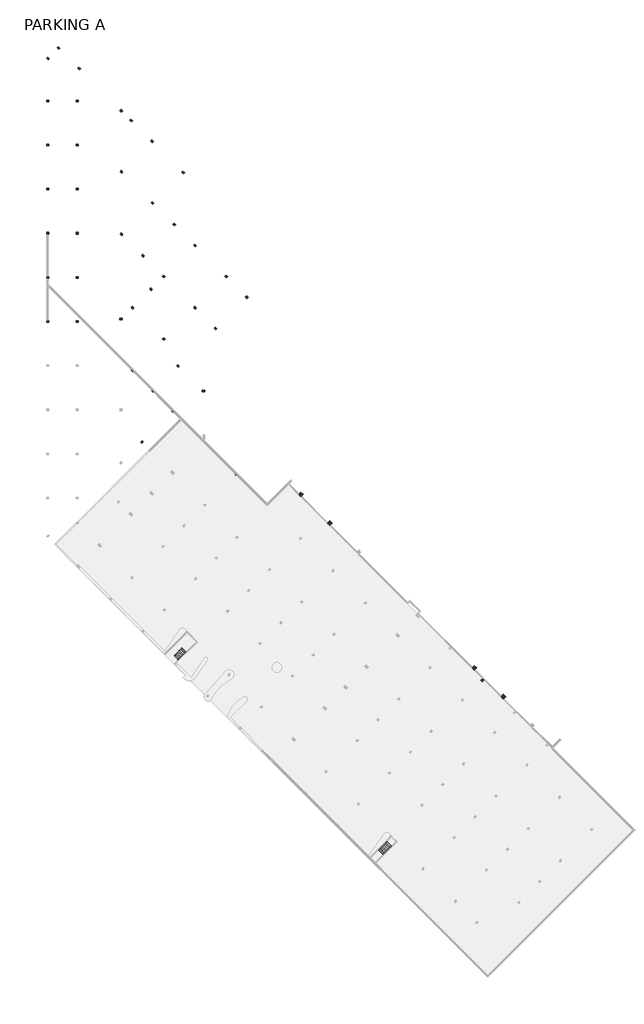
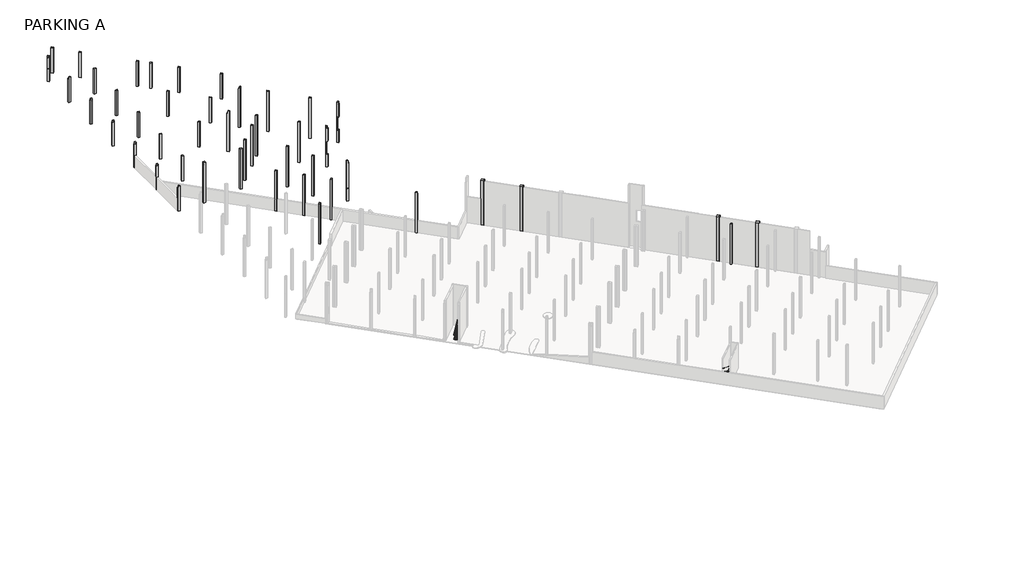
# One storey, part 3 of 3: 46 columns, 4 railings, 2 stair flights.
"""IFC4 building model written with IfcOpenShell, lengths in millimetres."""

from ifc_helpers import new_model, si_unit, frame, origin, place, context, project, spatial, polyline, outline, extrude, faceted_brep, transform, mapped, element, save
from components import column_746bd152, column_d698a775, railing_1_6d40baea, railing_1_b2eb6bb3, railing_1_8f361b06, railing_1_4b42a0d8

model = new_model("IFC4")

# Units and contexts
model_context = context("Model", 3, world=origin())
ifc_project = project(units=[si_unit("LENGTHUNIT", "METRE", prefix="MILLI")], contexts=[model_context])

# Site, building, storey
site = spatial("IfcSite", under=ifc_project)
building = spatial("IfcBuilding", under=site)
storey = spatial("IfcBuildingStorey", under=building, Name="PARKING A", Elevation=-6007.1)

# Columns
placement = place(None, origin())
element("IfcColumn", 1, ObjectType="Rectangular Column : 12\" x 16\"", at=placement, inside=storey, context=model_context, shape_type="SweptSolid", body=[
    extrude(outline(polyline([(0.0, 406.4), (9232.9, 406.4), (9232.9, 304.8), (6553.2, 304.8), (6553.2, 0.0), (0.0, 0.0), (0.0, 406.4)])), frame((-55889.5534334, 54142.7529679, 3225.8), z_axis=(-0.7071067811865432, 0.7071067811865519, 0.0), x_axis=(0.0, 0.0, -1.0)), (0.0, 0.0, 1.0), 304.8),
])
element("IfcColumn", 2, ObjectType="Rectangular Column : 12\" x 16\"", at=placement, inside=storey, context=model_context, shape_type="Brep", body=[
    faceted_brep([(-44453.1972632, 42131.660406, -6007.1), (-44668.7234101, 42347.1865529, -6007.1), (-44596.8813612, 42419.0286019, -6007.1), (-44381.3552142, 42203.502455, -6007.1), (-44165.8290673, 42419.0286019, -3327.4), (-44381.3552142, 42634.5547488, -3327.4), (-44381.3552142, 42634.5547488, -152.4), (-44381.3552142, 42634.5547488, 762.0), (-44381.3552142, 42634.5547488, 2768.6), (-44165.8290673, 42419.0286019, 2768.6), (-44165.8290673, 42419.0286019, 762.0), (-44165.8290673, 42419.0286019, -152.4), (-44165.8290673, 42419.0286019, -3048.0), (-44165.8290673, 42419.0286019, -3200.4), (-44381.3552142, 42203.502455, -3327.4), (-44273.5921408, 42311.2655284, 2768.6), (-44273.5921408, 42311.2655284, 3225.8), (-44453.1972632, 42131.660406, 3225.8), (-44453.1972632, 42131.660406, -3048.0), (-44453.1972632, 42131.660406, -3200.4), (-44668.7234101, 42347.1865529, 3225.8), (-44489.1182877, 42526.7916753, 3225.8), (-44489.1182877, 42526.7916753, 2768.6), (-44596.8813612, 42419.0286019, -3327.4)], [[[0, 1, 2, 3]], [[4, 5, 6, 7, 8, 9, 10, 11, 12, 13]], [[0, 3, 14, 4, 13, 12, 11, 10, 9, 15, 16, 17, 18, 19]], [[1, 0, 19, 18, 17, 20]], [[1, 20, 21, 22, 8, 7, 6, 5, 23, 2]], [[20, 17, 16, 21]], [[23, 14, 3, 2]], [[14, 23, 5, 4]], [[15, 22, 21, 16]], [[22, 15, 9, 8]]]),
])
element("IfcColumn", 3, ObjectType="Rectangular Column : 12\" x 16\"", at=placement, inside=storey, context=model_context, shape_type="Brep", body=[
    faceted_brep([(-50248.8083521, 57682.4896908, -6007.1), (-50655.2083521, 57682.4896908, -6007.1), (-50655.2083521, 57987.2896908, -6007.1), (-50248.8083521, 57987.2896908, -6007.1), (-50248.8083521, 57987.2896908, -3200.4), (-50655.2083521, 57987.2896908, -3200.4), (-50655.2083521, 57682.4896908, -3200.4), (-50248.8083521, 57682.4896908, -3200.4)], [[[0, 1, 2, 3]], [[4, 5, 6, 7]], [[2, 1, 6, 5]], [[0, 3, 4, 7]], [[3, 2, 5, 4]], [[1, 0, 7, 6]]]),
    faceted_brep([(-50248.8083521, 57682.4896908, -3048.0), (-50248.8083521, 57987.2896908, -3048.0), (-50248.8083521, 57987.2896908, -152.4), (-50248.8083521, 57987.2896908, 762.0), (-50248.8083521, 57987.2896908, 2768.6), (-50248.8083521, 57682.4896908, 2768.6), (-50248.8083521, 57682.4896908, 762.0), (-50248.8083521, 57682.4896908, -152.4), (-50655.2083521, 57987.2896908, -3048.0), (-50655.2083521, 57987.2896908, 3225.8), (-50401.2083521, 57987.2896908, 3225.8), (-50401.2083521, 57987.2896908, 2768.6), (-50655.2083521, 57682.4896908, 3225.8), (-50655.2083521, 57682.4896908, -3048.0), (-50401.2083521, 57682.4896908, 2768.6), (-50401.2083521, 57682.4896908, 3225.8)], [[[0, 1, 2, 3, 4, 5, 6, 7]], [[8, 9, 10, 11, 4, 3, 2, 1]], [[12, 9, 8, 13]], [[12, 13, 0, 7, 6, 5, 14, 15]], [[9, 12, 15, 10]], [[8, 1, 0, 13]], [[14, 11, 10, 15]], [[11, 14, 5, 4]]]),
])
element("IfcColumn", 4, ObjectType="Rectangular Column : 12\" x 16\"", at=placement, inside=storey, context=model_context, shape_type="SweptSolid", body=[
    extrude(outline(polyline([(0.0, 304.8000001), (9232.9, 304.8000001), (9232.9, 254.0), (6553.2, 254.0), (6553.2, 0.0), (0.0, 0.0), (0.0, 304.8000001)])), frame((-59611.8695956, 57793.2270812, 3225.8), z_axis=(-0.7071067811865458, 0.7071067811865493, 0.0), x_axis=(0.0, 0.0, -1.0)), (0.0, 0.0, 1.0), 406.4),
])
element("IfcColumn", 5, ObjectType="Rectangular Column : 12\" x 16\"", at=placement, inside=storey, context=model_context, shape_type="SweptSolid", body=[
    extrude(outline(polyline([(-55193.583584, 62211.5130927), (-55480.9517799, 62498.8812886), (-55265.425633, 62714.4074355), (-54978.0574371, 62427.0392396), (-55193.583584, 62211.5130927)])), frame((0.0, 0.0, -6007.1), z_axis=(0.0, 0.0, 1.0), x_axis=(1.0, 0.0, 0.0)), (0.0, 0.0, 1.0), 9232.9),
])
element("IfcColumn", 6, ObjectType="Rectangular Column : 12\" x 16\"", at=placement, inside=storey, context=model_context, shape_type="Brep", body=[
    faceted_brep([(-79334.713691, 70623.4660287, -6007.1), (-79741.113691, 70623.4660287, -6007.1), (-79741.113691, 70928.2660287, -6007.1), (-79436.313691, 70928.2660287, -6007.1), (-79334.713691, 70928.2660287, -6007.1), (-79334.713691, 70928.2660287, -279.4), (-79334.713691, 70623.4660287, -279.4), (-79741.113691, 70928.2660287, -3200.4), (-79741.113691, 70928.2660287, -2286.0), (-79741.113691, 70928.2660287, -609.6), (-79588.713691, 70928.2660287, -609.6), (-79588.713691, 70928.2660287, -279.4), (-79741.113691, 70623.4660287, -3657.6), (-79741.113691, 70623.4660287, -2286.0), (-79741.113691, 70623.4660287, -609.6), (-79588.713691, 70623.4660287, -279.4), (-79588.713691, 70623.4660287, -609.6)], [[[0, 1, 2, 3, 4]], [[0, 4, 5, 6]], [[4, 3, 2, 7, 8, 9, 10, 11, 5]], [[2, 1, 12, 13, 14, 9, 8, 7]], [[1, 0, 6, 15, 16, 14, 13, 12]], [[6, 5, 11, 15]], [[10, 16, 15, 11]], [[16, 10, 9, 14]]]),
])
element("IfcColumn", 7, ObjectType="Rectangular Column : 12\" x 16\"", at=placement, inside=storey, context=model_context, shape_type="Brep", body=[
    faceted_brep([(-79334.713691, 78853.0660287, -6007.1), (-79436.313691, 78853.0660287, -6007.1), (-79741.113691, 78853.0660287, -6007.1), (-79741.113691, 79157.8660287, -6007.1), (-79436.313691, 79157.8660287, -6007.1), (-79334.713691, 79157.8660287, -6007.1), (-79334.713691, 79157.8660287, -279.4), (-79334.713691, 78853.0660287, -279.4), (-79741.113691, 79157.8660287, -3200.4), (-79741.113691, 79157.8660287, -2286.0), (-79741.113691, 79157.8660287, -609.6), (-79588.713691, 79157.8660287, -609.6), (-79588.713691, 79157.8660287, -279.4), (-79741.113691, 78853.0660287, -3200.4), (-79741.113691, 78853.0660287, -2286.0), (-79741.113691, 78853.0660287, -609.6), (-79588.713691, 78853.0660287, -279.4), (-79588.713691, 78853.0660287, -609.6)], [[[0, 1, 2, 3, 4, 5]], [[0, 5, 6, 7]], [[5, 4, 3, 8, 9, 10, 11, 12, 6]], [[3, 2, 13, 14, 15, 10, 9, 8]], [[2, 1, 0, 7, 16, 17, 15, 14, 13]], [[7, 6, 12, 16]], [[11, 17, 16, 12]], [[17, 11, 10, 15]]]),
])
element("IfcColumn", 8, ObjectType="Rectangular Column : 12\" x 16\"", at=placement, inside=storey, context=model_context, shape_type="Brep", body=[
    faceted_brep([(-79741.113691, 87387.4660287, -6007.1), (-79334.713691, 87387.4660287, -6007.1), (-79334.713691, 87082.6660287, -6007.1), (-79436.313691, 87082.6660287, -6007.1), (-79741.113691, 87082.6660287, -6007.1), (-79334.713691, 87387.4660287, -279.4), (-79334.713691, 87082.6660287, -279.4), (-79588.713691, 87082.6660287, -279.4), (-79588.713691, 87082.6660287, -609.6), (-79741.113691, 87082.6660287, -609.6), (-79741.113691, 87082.6660287, -2286.0), (-79741.113691, 87082.6660287, -3200.4), (-79741.113691, 87387.4660287, -609.6), (-79741.113691, 87387.4660287, -2286.0), (-79741.113691, 87387.4660287, -3200.4), (-79588.713691, 87387.4660287, -609.6), (-79588.713691, 87387.4660287, -279.4)], [[[0, 1, 2, 3, 4]], [[2, 1, 5, 6]], [[4, 3, 2, 6, 7, 8, 9, 10, 11]], [[0, 4, 11, 10, 9, 12, 13, 14]], [[1, 0, 14, 13, 12, 15, 16, 5]], [[6, 5, 16, 7]], [[15, 8, 7, 16]], [[8, 15, 12, 9]]]),
])
element("IfcColumn", 9, ObjectType="Rectangular Column : 12\" x 16\"", at=placement, inside=storey, context=model_context, shape_type="Brep", body=[
    faceted_brep([(-79741.113691, 95617.0660287, -6007.1), (-79334.713691, 95617.0660287, -6007.1), (-79334.713691, 95312.2660287, -6007.1), (-79741.113691, 95312.2660287, -6007.1), (-79334.713691, 95617.0660287, -279.4), (-79334.713691, 95312.2660287, -279.4), (-79588.713691, 95312.2660287, -279.4), (-79588.713691, 95312.2660287, -609.6), (-79741.113691, 95312.2660287, -609.6), (-79741.113691, 95312.2660287, -2286.0), (-79741.113691, 95312.2660287, -3200.4), (-79741.113691, 95617.0660287, -609.6), (-79588.713691, 95617.0660287, -609.6), (-79588.713691, 95617.0660287, -279.4)], [[[0, 1, 2, 3]], [[2, 1, 4, 5]], [[3, 2, 5, 6, 7, 8, 9, 10]], [[0, 3, 10, 9, 8, 11]], [[1, 0, 11, 12, 13, 4]], [[5, 4, 13, 6]], [[12, 7, 6, 13]], [[7, 12, 11, 8]]]),
])
element("IfcColumn", 10, ObjectType="Rectangular Column : 12\" x 16\"", at=placement, inside=storey, context=model_context, shape_type="SweptSolid", body=[
    extrude(outline(polyline([(-6007.1, -79741.113691), (-6007.1, -79334.713691), (-279.4, -79334.713691), (-279.4, -79588.713691), (-609.6, -79588.713691), (-609.6, -79741.113691), (-6007.1, -79741.113691)])), frame((0.0, 103541.8660287, 0.0), z_axis=(0.0, 1.0, 0.0), x_axis=(0.0, 0.0, 1.0)), (0.0, 0.0, 1.0), 304.8),
])
element("IfcColumn", 11, ObjectType="Rectangular Column : 12\" x 16\"", at=placement, inside=storey, context=model_context, shape_type="SweptSolid", body=[
    extrude(outline(polyline([(-6007.1, -79741.113691), (-6007.1, -79334.713691), (-279.4, -79334.713691), (-279.4, -79588.713691), (-609.6, -79588.713691), (-609.6, -79741.113691), (-6007.1, -79741.113691)])), frame((0.0, 111771.4660287, 0.0), z_axis=(0.0, 1.0, 0.0), x_axis=(0.0, 0.0, 1.0)), (0.0, 0.0, 1.0), 304.8),
])
element("IfcColumn", 12, ObjectType="Rectangular Column : 12\" x 16\"", at=placement, inside=storey, context=model_context, shape_type="Brep", body=[
    faceted_brep([(-79525.587544, 120066.8131527, -6007.1), (-79238.2193482, 119779.4449568, -6007.1), (-79453.7454951, 119563.9188099, -6007.1), (-79741.113691, 119851.2870058, -6007.1), (-79741.113691, 119851.2870058, -3200.4), (-79453.7454951, 119563.9188099, -3200.4), (-79334.713691, 119682.9506141, -3200.4), (-79334.713691, 119875.9392996, -3200.4), (-79525.587544, 120066.8131527, -3200.4), (-79238.2193482, 119779.4449568, -3200.4)], [[[0, 1, 2, 3]], [[4, 5, 6, 7, 8]], [[9, 7, 6]], [[2, 1, 9, 6, 5]], [[1, 0, 8, 7, 9]], [[3, 2, 5, 4]], [[0, 3, 4, 8]]]),
    faceted_brep([(-79238.2193482, 119779.4449568, -279.4), (-79453.7454951, 119563.9188099, -279.4), (-79453.7454951, 119563.9188099, -3048.0), (-79334.713691, 119682.9506141, -3048.0), (-79238.2193482, 119779.4449568, -3048.0), (-79741.113691, 119851.2870058, -3048.0), (-79588.713691, 119698.8870058, -279.4), (-79588.713691, 119698.8870058, -609.6), (-79741.113691, 119851.2870058, -609.6), (-79525.587544, 120066.8131527, -3048.0), (-79588.713691, 120003.6870058, -609.6), (-79588.713691, 120003.6870058, -279.4), (-79525.587544, 120066.8131527, -279.4), (-79334.713691, 119875.9392996, -3048.0)], [[[0, 1, 2, 3, 4]], [[5, 2, 1, 6, 7, 8]], [[9, 5, 8, 10, 11, 12]], [[12, 0, 4, 13, 9]], [[1, 0, 12, 11, 6]], [[2, 5, 9, 13, 3]], [[13, 4, 3]], [[10, 7, 6, 11]], [[7, 10, 8]]]),
])
element("IfcColumn", 13, ObjectType="Rectangular Column : 12\" x 16\"", at=placement, inside=storey, context=model_context, shape_type="Brep", body=[
    faceted_brep([(-77464.6187643, 121553.0455407, -6007.1), (-77751.9869601, 121840.4137366, -6007.1), (-77536.4608132, 122055.9398835, -6007.1), (-77249.0926174, 121768.5716877, -6007.1), (-77249.0926174, 121768.5716877, -279.4), (-77464.6187643, 121553.0455407, -279.4), (-77464.6187643, 121553.0455407, -3048.0), (-77464.6187643, 121553.0455407, -3200.4), (-77536.4608132, 122055.9398835, -279.4), (-77751.9869601, 121840.4137366, -3200.4), (-77751.9869601, 121840.4137366, -3048.0), (-77751.9869601, 121840.4137366, -279.4)], [[[0, 1, 2, 3]], [[0, 3, 4, 5, 6, 7]], [[3, 2, 8, 4]], [[2, 1, 9, 10, 11, 8]], [[1, 0, 7, 6, 5, 11, 10, 9]], [[5, 4, 8, 11]]]),
])
element("IfcColumn", 14, ObjectType="Rectangular Column : 12\" x 16\"", at=placement, inside=storey, context=model_context, shape_type="SweptSolid", body=[
    extrude(outline(polyline([(-73621.0691444, 117709.4959209), (-73908.4373403, 117996.8641168), (-73692.9111934, 118212.3902637), (-73405.5429975, 117925.0220678), (-73621.0691444, 117709.4959209)])), frame((0.0, 0.0, -6007.1), z_axis=(0.0, 0.0, 1.0), x_axis=(1.0, 0.0, 0.0)), (0.0, 0.0, 1.0), 5727.7),
])
element("IfcColumn", 15, ObjectType="Rectangular Column : 12\" x 16\"", at=placement, inside=storey, context=model_context, shape_type="SweptSolid", body=[
    extrude(outline(polyline([(-63922.3925337, 108010.8193102), (-64209.7607296, 108298.187506), (-63994.2345827, 108513.713653), (-63706.8663868, 108226.3454571), (-63922.3925337, 108010.8193102)])), frame((0.0, 0.0, -6007.1), z_axis=(0.0, 0.0, 1.0), x_axis=(1.0, 0.0, 0.0)), (0.0, 0.0, 1.0), 5727.7),
])
element("IfcColumn", 16, ObjectType="Rectangular Column : 12\" x 16\"", at=placement, inside=storey, context=model_context, shape_type="SweptSolid", body=[
    extrude(outline(polyline([(-65780.8883444, 109816.2679969), (-66068.2565403, 110103.6361927), (-65852.7303934, 110319.1623396), (-65565.3621975, 110031.7941438), (-65780.8883444, 109816.2679969)])), frame((0.0, 0.0, -6007.1), z_axis=(0.0, 0.0, 1.0), x_axis=(1.0, 0.0, 0.0)), (0.0, 0.0, 1.0), 5727.7),
])
element("IfcColumn", 17, ObjectType="Rectangular Column : 12\" x 16\"", at=placement, inside=storey, context=model_context, shape_type="Brep", body=[
    faceted_brep([(-42351.8173309, 75053.2793459, -6007.1), (-42639.1855268, 75340.6475417, -6007.1), (-42423.6593799, 75556.1736886, -6007.1), (-42136.291184, 75268.8054928, -6007.1), (-42351.8173309, 75053.2793459, -152.4), (-42136.291184, 75268.8054928, -152.4), (-42136.291184, 75268.8054928, 762.0), (-42136.291184, 75268.8054928, 2768.6), (-42351.8173309, 75053.2793459, 2768.6), (-42351.8173309, 75053.2793459, 762.0), (-42423.6593799, 75556.1736886, 3225.8), (-42244.0542574, 75376.5685662, 3225.8), (-42244.0542574, 75376.5685662, 2768.6), (-42244.0542574, 75376.5685662, -152.4), (-42351.8173309, 75484.3316397, -152.4), (-42351.8173309, 75484.3316397, -3200.4), (-42136.291184, 75268.8054928, -3200.4), (-42639.1855268, 75340.6475417, 3225.8), (-42351.8173309, 75053.2793459, -3200.4), (-42567.3434778, 75268.8054928, -3200.4), (-42567.3434778, 75268.8054928, -152.4), (-42459.5804043, 75161.0424193, -152.4), (-42459.5804043, 75161.0424193, 2768.6), (-42459.5804043, 75161.0424193, 3225.8)], [[[0, 1, 2, 3]], [[4, 5, 6, 7, 8, 9]], [[3, 2, 10, 11, 12, 7, 6, 5, 13, 14, 15, 16]], [[2, 1, 17, 10]], [[1, 0, 18, 19, 20, 21, 4, 9, 8, 22, 23, 17]], [[10, 17, 23, 11]], [[19, 15, 14, 20]], [[15, 19, 18, 16]], [[20, 14, 13, 5, 4, 21]], [[0, 3, 16, 18]], [[22, 12, 11, 23]], [[12, 22, 8, 7]]]),
])
element("IfcColumn", 18, ObjectType="Rectangular Column : 12\" x 16\"", at=placement, inside=storey, context=model_context, shape_type="Brep", body=[
    faceted_brep([(-48171.0232973, 69234.0733794, -6007.1), (-48458.3914932, 69521.4415753, -6007.1), (-48242.8653463, 69736.9677222, -6007.1), (-47955.4971504, 69449.5995263, -6007.1), (-48171.0232973, 69234.0733794, -152.4), (-47955.4971504, 69449.5995263, -152.4), (-47955.4971504, 69449.5995263, 762.0), (-47955.4971504, 69449.5995263, 2768.6), (-48171.0232973, 69234.0733794, 2768.6), (-48171.0232973, 69234.0733794, 762.0), (-48242.8653463, 69736.9677222, 3225.8), (-48063.2602239, 69557.3625998, 3225.8), (-48063.2602239, 69557.3625998, 2768.6), (-48063.2602239, 69557.3625998, -152.4), (-48171.0232973, 69665.1256732, -152.4), (-48171.0232973, 69665.1256732, -3200.4), (-47955.4971504, 69449.5995263, -3200.4), (-48458.3914932, 69521.4415753, 3225.8), (-48171.0232973, 69234.0733794, -3200.4), (-48386.5494442, 69449.5995263, -3200.4), (-48386.5494442, 69449.5995263, -152.4), (-48278.7863708, 69341.8364529, -152.4), (-48278.7863708, 69341.8364529, 2768.6), (-48278.7863708, 69341.8364529, 3225.8)], [[[0, 1, 2, 3]], [[4, 5, 6, 7, 8, 9]], [[3, 2, 10, 11, 12, 7, 6, 5, 13, 14, 15, 16]], [[2, 1, 17, 10]], [[1, 0, 18, 19, 20, 21, 4, 9, 8, 22, 23, 17]], [[10, 17, 23, 11]], [[19, 15, 14, 20]], [[15, 19, 18, 16]], [[20, 14, 13, 5, 4, 21]], [[0, 3, 16, 18]], [[22, 12, 11, 23]], [[12, 22, 8, 7]]]),
])
element("IfcColumn", 19, ObjectType="Rectangular Column : 12\" x 16\"", at=placement, inside=storey, context=model_context, shape_type="SweptSolid", body=[
    extrude(outline(polyline([(-60042.9218894, 104131.3486659), (-60330.2900853, 104418.7168617), (-60114.7639384, 104634.2430087), (-59827.3957425, 104346.8748128), (-60042.9218894, 104131.3486659)])), frame((0.0, 0.0, -6007.1), z_axis=(0.0, 0.0, 1.0), x_axis=(1.0, 0.0, 0.0)), (0.0, 0.0, 1.0), 5727.7),
])
element("IfcColumn", 20, ObjectType="Rectangular Column : 12\" x 16\"", at=placement, inside=storey, context=model_context, shape_type="SweptSolid", body=[
    extrude(outline(polyline([(-54223.7159229, 98312.1426994), (-54511.0841188, 98599.5108953), (-54295.5579719, 98815.0370422), (-54008.189776, 98527.6688463), (-54223.7159229, 98312.1426994)])), frame((0.0, 0.0, -6007.1), z_axis=(0.0, 0.0, 1.0), x_axis=(1.0, 0.0, 0.0)), (0.0, 0.0, 1.0), 5727.7),
])
element("IfcColumn", 21, ObjectType="Rectangular Column : 12\" x 16\"", at=placement, inside=storey, context=model_context, shape_type="SweptSolid", body=[
    extrude(outline(polyline([(0.0, 304.8), (9232.9, 304.8), (9232.9, 254.0), (6553.2, 254.0), (6553.2, 0.0), (0.0, 0.0), (0.0, 304.8)])), frame((-63455.4192154, 61636.776701, 3225.8), z_axis=(-0.7071067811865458, 0.7071067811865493, 0.0), x_axis=(0.0, 0.0, -1.0)), (0.0, 0.0, 1.0), 406.4),
])
element("IfcColumn", 22, ObjectType="Rectangular Column : 12\" x 16\"", at=placement, inside=storey, context=model_context, shape_type="SweptSolid", body=[
    extrude(outline(polyline([(-57833.7788836, 67258.4170328), (-58121.1470795, 67545.7852286), (-57905.6209326, 67761.3113755), (-57618.2527367, 67473.9431797), (-57833.7788836, 67258.4170328)])), frame((0.0, 0.0, -6007.1), z_axis=(0.0, 0.0, 1.0), x_axis=(1.0, 0.0, 0.0)), (0.0, 0.0, 1.0), 9232.9),
])
element("IfcColumn", 23, ObjectType="Rectangular Column : 12\" x 16\"", at=placement, inside=storey, context=model_context, shape_type="SweptSolid", body=[
    extrude(outline(polyline([(-52014.5729172, 73077.6229992), (-52301.941113, 73364.9911951), (-52086.4149661, 73580.517342), (-51799.0467702, 73293.1491461), (-52014.5729172, 73077.6229992)])), frame((0.0, 0.0, -6007.1), z_axis=(0.0, 0.0, 1.0), x_axis=(1.0, 0.0, 0.0)), (0.0, 0.0, 1.0), 9232.9),
])
element("IfcColumn", 24, ObjectType="Rectangular Column : 12\" x 16\"", at=placement, inside=storey, context=model_context, shape_type="SweptSolid", body=[
    extrude(outline(polyline([(-46195.3669507, 78896.8289657), (-46482.7351466, 79184.1971615), (-46267.2089997, 79399.7233084), (-45979.8408038, 79112.3551126), (-46195.3669507, 78896.8289657)])), frame((0.0, 0.0, -6007.1), z_axis=(0.0, 0.0, 1.0), x_axis=(1.0, 0.0, 0.0)), (0.0, 0.0, 1.0), 9232.9),
])
element("IfcColumn", 25, ObjectType="Rectangular Column : 12\" x 16\"", at=placement, inside=storey, context=model_context, shape_type="Brep", body=[
    faceted_brep([(-73799.5300296, 70623.4660287, -6007.1), (-74205.9300296, 70623.4660287, -6007.1), (-74205.9300296, 70928.2660287, -6007.1), (-73799.5300296, 70928.2660287, -6007.1), (-73799.5300296, 70928.2660287, 3225.8), (-73799.5300296, 70623.4660287, 3225.8), (-74205.9300296, 70928.2660287, 3225.8), (-74136.0195009, 70928.2660287, 3225.8), (-74136.0195009, 70928.2660287, 2768.6), (-73920.493354, 70928.2660287, 2768.6), (-73920.493354, 70928.2660287, 3225.8), (-74205.9300296, 70623.4660287, 3225.8), (-74205.9300296, 70642.8293531, 3225.8), (-74205.9300296, 70642.8293531, 2768.6), (-74205.9300296, 70858.3555, 2768.6), (-74205.9300296, 70858.3555, 3225.8)], [[[0, 1, 2, 3]], [[0, 3, 4, 5]], [[3, 2, 6, 7, 8, 9, 10, 4]], [[2, 1, 11, 12, 13, 14, 15, 6]], [[1, 0, 5, 11]], [[5, 4, 10, 12, 11]], [[9, 13, 12, 10]], [[14, 8, 7, 15]], [[13, 9, 8, 14]], [[7, 6, 15]]]),
])
element("IfcColumn", 26, ObjectType="Rectangular Column : 12\" x 16\"", at=placement, inside=storey, context=model_context, shape_type="SweptSolid", body=[
    extrude(outline(polyline([(-73799.5300296, 78853.0660287), (-74205.9300296, 78853.0660287), (-74205.9300296, 79157.8660287), (-73799.5300296, 79157.8660287), (-73799.5300296, 78853.0660287)])), frame((0.0, 0.0, -6007.1), z_axis=(0.0, 0.0, 1.0), x_axis=(1.0, 0.0, 0.0)), (0.0, 0.0, 1.0), 5727.7),
])
element("IfcColumn", 27, ObjectType="Rectangular Column : 12\" x 16\"", at=placement, inside=storey, context=model_context, shape_type="SweptSolid", body=[
    extrude(outline(polyline([(-73799.5300296, 87387.4660287), (-73799.5300296, 87082.6660287), (-74205.9300296, 87082.6660287), (-74205.9300296, 87387.4660287), (-73799.5300296, 87387.4660287)])), frame((0.0, 0.0, -6007.1), z_axis=(0.0, 0.0, 1.0), x_axis=(1.0, 0.0, 0.0)), (0.0, 0.0, 1.0), 5727.7),
])
element("IfcColumn", 28, ObjectType="Rectangular Column : 12\" x 16\"", at=placement, inside=storey, context=model_context, shape_type="SweptSolid", body=[
    extrude(outline(polyline([(-73799.5300296, 95617.0660287), (-73799.5300296, 95312.2660287), (-74205.9300296, 95312.2660287), (-74205.9300296, 95617.0660287), (-73799.5300296, 95617.0660287)])), frame((0.0, 0.0, -6007.1), z_axis=(0.0, 0.0, 1.0), x_axis=(1.0, 0.0, 0.0)), (0.0, 0.0, 1.0), 5727.7),
])
element("IfcColumn", 29, ObjectType="Rectangular Column : 12\" x 16\"", at=placement, inside=storey, context=model_context, shape_type="SweptSolid", body=[
    extrude(outline(polyline([(-73799.5300296, 103541.8660287), (-74205.9300296, 103541.8660287), (-74205.9300296, 103846.6660287), (-73799.5300296, 103846.6660287), (-73799.5300296, 103541.8660287)])), frame((0.0, 0.0, -6007.1), z_axis=(0.0, 0.0, 1.0), x_axis=(1.0, 0.0, 0.0)), (0.0, 0.0, 1.0), 5727.7),
])
element("IfcColumn", 30, ObjectType="Rectangular Column : 12\" x 16\"", at=placement, inside=storey, context=model_context, shape_type="SweptSolid", body=[
    extrude(outline(polyline([(-73799.5300296, 111771.4660287), (-74205.9300296, 111771.4660287), (-74205.9300296, 112076.2660287), (-73799.5300296, 112076.2660287), (-73799.5300296, 111771.4660287)])), frame((0.0, 0.0, -6007.1), z_axis=(0.0, 0.0, 1.0), x_axis=(1.0, 0.0, 0.0)), (0.0, 0.0, 1.0), 5727.7),
])
element("IfcColumn", 31, ObjectType="Rectangular Column : 12\" x 16\"", at=placement, inside=storey, context=model_context, shape_type="SweptSolid", body=[
    extrude(outline(polyline([(-65736.4042701, 98437.8662851), (-66023.772466, 98725.234481), (-65808.2463191, 98940.7606279), (-65520.8781232, 98653.392432), (-65736.4042701, 98437.8662851)])), frame((0.0, 0.0, -6007.1), z_axis=(0.0, 0.0, 1.0), x_axis=(1.0, 0.0, 0.0)), (0.0, 0.0, 1.0), 5727.7),
])
element("IfcColumn", 32, ObjectType="Rectangular Column : 12\" x 16\"", at=placement, inside=storey, context=model_context, shape_type="SweptSolid", body=[
    extrude(outline(polyline([(-59917.1983037, 92618.6603187), (-60204.5664996, 92906.0285145), (-59989.0403527, 93121.5546614), (-59701.6721568, 92834.1864656), (-59917.1983037, 92618.6603187)])), frame((0.0, 0.0, -6007.1), z_axis=(0.0, 0.0, 1.0), x_axis=(1.0, 0.0, 0.0)), (0.0, 0.0, 1.0), 5727.7),
])
element("IfcColumn", 33, ObjectType="Rectangular Column : 12\" x 16\"", at=placement, inside=storey, context=model_context, shape_type="SweptSolid", body=[
    extrude(outline(polyline([(9232.9, 406.4), (9232.9, 0.0), (0.0, 0.0), (0.0, 254.0), (457.2, 254.0), (457.2, 406.4), (9232.9, 406.4)])), frame((-55894.0435615, 88595.5055764, 3225.8), z_axis=(0.7071067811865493, 0.7071067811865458, 0.0), x_axis=(0.0, 0.0, -1.0)), (0.0, 0.0, 1.0), 304.8),
])
element("IfcColumn", 34, ObjectType="Rectangular Column : 12\" x 16\"", at=placement, inside=storey, context=model_context, shape_type="SweptSolid", body=[
    extrude(outline(polyline([(-52014.5729172, 84716.0349321), (-52301.941113, 85003.403128), (-52086.4149661, 85218.9292749), (-51799.0467702, 84931.561079), (-52014.5729172, 84716.0349321)])), frame((0.0, 0.0, -6007.1), z_axis=(0.0, 0.0, 1.0), x_axis=(1.0, 0.0, 0.0)), (0.0, 0.0, 1.0), 9232.9),
])
element("IfcColumn", 35, ObjectType="Rectangular Column : 12\" x 16\"", at=placement, inside=storey, context=model_context, shape_type="SweptSolid", body=[
    extrude(outline(polyline([(-65736.4042701, 86799.4543522), (-66023.772466, 87086.8225481), (-65808.2463191, 87302.348695), (-65520.8781232, 87014.9804991), (-65736.4042701, 86799.4543522)])), frame((0.0, 0.0, -6007.1), z_axis=(0.0, 0.0, 1.0), x_axis=(1.0, 0.0, 0.0)), (0.0, 0.0, 1.0), 5727.7),
])
element("IfcColumn", 36, ObjectType="Rectangular Column : 12\" x 16\"", at=placement, inside=storey, context=model_context, shape_type="SweptSolid", body=[
    extrude(outline(polyline([(9232.9, 406.4), (9232.9, 0.0), (0.0, 0.0), (0.0, 254.0), (457.2, 254.0), (457.2, 406.4), (9232.9, 406.4)])), frame((-61713.2495279, 82776.29961, 3225.8), z_axis=(0.7071067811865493, 0.7071067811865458, 0.0), x_axis=(0.0, 0.0, -1.0)), (0.0, 0.0, 1.0), 304.8),
])
element("IfcColumn", 37, ObjectType="Rectangular Column : 12\" x 16\"", at=placement, inside=storey, context=model_context, shape_type="SweptSolid", body=[
    extrude(outline(polyline([(-57833.7788836, 78896.8289657), (-58121.1470795, 79184.1971615), (-57905.6209326, 79399.7233084), (-57618.2527367, 79112.3551126), (-57833.7788836, 78896.8289657)])), frame((0.0, 0.0, -6007.1), z_axis=(0.0, 0.0, 1.0), x_axis=(1.0, 0.0, 0.0)), (0.0, 0.0, 1.0), 9232.9),
])
element("IfcColumn", 38, ObjectType="Rectangular Column : 12\" x 16\"", at=placement, inside=storey, context=model_context, shape_type="SweptSolid", body=[
    extrude(outline(polyline([(-63652.9848501, 73077.6229992), (-63940.3530459, 73364.9911951), (-63724.826899, 73580.517342), (-63437.4587032, 73293.1491461), (-63652.9848501, 73077.6229992)])), frame((0.0, 0.0, -6007.1), z_axis=(0.0, 0.0, 1.0), x_axis=(1.0, 0.0, 0.0)), (0.0, 0.0, 1.0), 9232.9),
])
element("IfcColumn", 39, ObjectType="Rectangular Column : 12\" x 16\"", at=placement, inside=storey, context=model_context, shape_type="SweptSolid", body=[
    extrude(outline(polyline([(-65636.4772155, 71093.3660287), (-66042.8772155, 71093.3660287), (-66042.8772155, 71398.1660287), (-65636.4772155, 71398.1660287), (-65636.4772155, 71093.3660287)])), frame((0.0, 0.0, -6007.1), z_axis=(0.0, 0.0, 1.0), x_axis=(1.0, 0.0, 0.0)), (0.0, 0.0, 1.0), 9232.9),
])
element("IfcColumn", 40, ObjectType="Rectangular Column : 12\" x 16\"", at=placement, inside=storey, context=model_context, shape_type="SweptSolid", body=[
    extrude(outline(polyline([(-60204.5664996, 76526.0413497), (-60491.9346954, 76813.4095456), (-60276.4085485, 77028.9356925), (-59989.0403527, 76741.5674966), (-60204.5664996, 76526.0413497)])), frame((0.0, 0.0, -6007.1), z_axis=(0.0, 0.0, 1.0), x_axis=(1.0, 0.0, 0.0)), (0.0, 0.0, 1.0), 9232.9),
])
column_shape = column_746bd152(model_context)
element("IfcColumn", 41, ObjectType="Rectangular Column : 12\" x 16\"", at=placement, inside=storey, context=model_context, shape_type="MappedRepresentation", body=[
    mapped(column_shape, transform((1543.6745889, 3857.808818, 0.0), x_axis=(0.7071067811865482, 0.7071067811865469, 0.0), y_axis=(-0.7071067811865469, 0.7071067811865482, 0.0), z_axis=(0.0, 0.0, 1.0))),
])
column_2_shape = column_d698a775(model_context)
element("IfcColumn", 42, ObjectType="Rectangular Column : 12\" x 16\"", at=placement, inside=storey, context=model_context, shape_type="MappedRepresentation", body=[
    mapped(column_2_shape, transform((-61960.2065712, 48287.625977, 0.0), x_axis=(0.7071067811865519, 0.7071067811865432, 0.0), y_axis=(-0.7071067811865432, 0.7071067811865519, 0.0), z_axis=(0.0, 0.0, 1.0))),
])
element("IfcColumn", 43, ObjectType="Rectangular Column : 24\" x 24\"", at=placement, inside=storey, context=model_context, shape_type="SweptSolid", body=[
    extrude(outline(polyline([(5459.817049, 1198.9022149), (5890.8693428, 767.8499211), (5459.817049, 336.7976273), (5028.7647552, 767.8499211), (5459.817049, 1198.9022149)])), frame((0.0, 0.0, -6007.1), z_axis=(0.0, 0.0, 1.0), x_axis=(1.0, 0.0, 0.0)), (0.0, 0.0, 1.0), 10147.3),
])
element("IfcColumn", 44, ObjectType="Rectangular Column : 24\" x 24\"", at=placement, inside=storey, context=model_context, shape_type="SweptSolid", body=[
    extrude(outline(polyline([(71.842049, 6586.8772149), (502.8943428, 6155.8249211), (71.842049, 5724.7726273), (-359.2102448, 6155.8249211), (71.842049, 6586.8772149)])), frame((0.0, 0.0, -6007.1), z_axis=(0.0, 0.0, 1.0), x_axis=(1.0, 0.0, 0.0)), (0.0, 0.0, 1.0), 10147.3),
])
element("IfcColumn", 45, ObjectType="Rectangular Column : 24\" x 24\"", at=placement, inside=storey, context=model_context, shape_type="Brep", body=[
    faceted_brep([(-32282.3847164, 38941.1039803, -6007.1), (-31851.3324226, 38510.0516865, -6007.1), (-32282.3847164, 38078.9993926, -6007.1), (-32713.4370102, 38510.0516865, -6007.1), (-32605.6739368, 38617.8147599, -6007.1), (-32282.3847164, 38941.1039803, 4140.2), (-31851.3324226, 38510.0516865, 4140.2), (-32713.4370102, 38510.0516865, -50.8), (-32713.4370102, 38510.0516865, 4140.2), (-32282.3847164, 38078.9993926, 4140.2)], [[[0, 1, 2, 3, 4]], [[1, 0, 5, 6]], [[5, 0, 4, 3, 7, 8]], [[3, 2, 9, 8, 7]], [[2, 1, 6, 9]], [[6, 5, 8, 9]]]),
])
element("IfcColumn", 46, ObjectType="Rectangular Column : 24\" x 24\"", at=placement, inside=storey, context=model_context, shape_type="SweptSolid", body=[
    extrude(outline(polyline([(-26493.1153736, 33151.8346375), (-26924.1676674, 32720.7823437), (-27355.2199612, 33151.8346375), (-26924.1676674, 33582.8869313), (-26493.1153736, 33151.8346375)])), frame((0.0, 0.0, -6007.1), z_axis=(0.0, 0.0, 1.0), x_axis=(1.0, 0.0, 0.0)), (0.0, 0.0, 1.0), 10147.3),
])

# Railings
railing_1_shape = railing_1_6d40baea(model_context)
element("IfcRailing", 47, ObjectType="Railing 1", at=placement, inside=storey, context=model_context, shape_type="MappedRepresentation", body=[
    mapped(railing_1_shape, transform((0.0, 0.0, 0.0), x_axis=(1.0, 0.0, 0.0), y_axis=(0.0, 1.0, 0.0), z_axis=(0.0, 0.0, 1.0))),
])
railing_1_2_shape = railing_1_b2eb6bb3(model_context)
element("IfcRailing", 48, ObjectType="Railing 1", at=placement, inside=storey, context=model_context, shape_type="MappedRepresentation", body=[
    mapped(railing_1_2_shape, transform((0.0, 0.0, 0.0), x_axis=(1.0, 0.0, 0.0), y_axis=(0.0, 1.0, 0.0), z_axis=(0.0, 0.0, 1.0))),
])
railing_1_3_shape = railing_1_8f361b06(model_context)
element("IfcRailing", 49, ObjectType="Railing 1", at=placement, inside=storey, context=model_context, shape_type="MappedRepresentation", body=[
    mapped(railing_1_3_shape, transform((0.0, 0.0, 0.0), x_axis=(1.0, 0.0, 0.0), y_axis=(0.0, 1.0, 0.0), z_axis=(0.0, 0.0, 1.0))),
])
railing_1_4_shape = railing_1_4b42a0d8(model_context)
element("IfcRailing", 50, ObjectType="Railing 1", at=placement, inside=storey, context=model_context, shape_type="MappedRepresentation", body=[
    mapped(railing_1_4_shape, transform((0.0, 0.0, 0.0), x_axis=(1.0, 0.0, 0.0), y_axis=(0.0, 1.0, 0.0), z_axis=(0.0, 0.0, 1.0))),
])

# Stair flights
element("IfcStairFlight", 51, ObjectType="3/4\" Nosing", at=placement, inside=storey, context=model_context, shape_type="Brep", body=[
    faceted_brep([(-16246.2127869, -26217.0689314, -5831.68125), (-15384.1081993, -27079.1735191, -5831.68125), (-15397.5785835, -27092.6439033, -6007.1), (-16259.6831711, -26230.5393156, -6007.1), (-16475.209318, -26446.0654625, -5831.68125), (-15613.1047304, -27308.1700502, -5831.68125), (-15613.1047304, -27308.1700502, -5904.9467187), (-15487.5953244, -27182.6606441, -6007.1), (-16349.699912, -26320.5560565, -6007.1), (-16475.209318, -26446.0654625, -5904.9467187), (-15599.6343462, -27294.699666, -5656.2625), (-16461.7389338, -26432.5950784, -5656.2625), (-16690.7354649, -26661.5916094, -5656.2625), (-15828.6308773, -27523.6961971, -5656.2625), (-15828.6308773, -27523.6961971, -5729.5279687), (-16690.7354649, -26661.5916094, -5729.5279687), (-15815.1604931, -27510.2258129, -5480.84375), (-16677.2650807, -26648.1212253, -5480.84375), (-16906.2616118, -26877.1177563, -5480.84375), (-16044.1570242, -27739.222344, -5480.84375), (-16044.1570242, -27739.222344, -5554.1092187), (-16906.2616118, -26877.1177563, -5554.1092187), (-16030.68664, -27725.7519598, -5305.425), (-16892.7912277, -26863.6473722, -5305.425), (-17121.7877587, -27092.6439033, -5305.425), (-16259.6831711, -27954.7484909, -5305.425), (-16259.6831711, -27954.7484909, -5378.6904687), (-17121.7877587, -27092.6439033, -5378.6904687), (-16246.2127869, -27941.2781067, -5130.00625), (-17108.3173746, -27079.1735191, -5130.00625), (-17337.3139056, -27308.1700502, -5130.00625), (-16475.209318, -28170.2746378, -5130.00625), (-16475.209318, -28170.2746378, -5203.2717187), (-17337.3139056, -27308.1700502, -5203.2717187), (-16461.7389338, -28156.8042536, -4954.5875), (-17323.8435215, -27294.699666, -4954.5875), (-17552.8400526, -27523.6961971, -4954.5875), (-16690.7354649, -28385.8007847, -4954.5875), (-16690.7354649, -28385.8007847, -5027.8529687), (-17552.8400526, -27523.6961971, -5027.8529687), (-16677.2650807, -28372.3304005, -4779.16875), (-17539.3696684, -27510.2258129, -4779.16875), (-17768.3661995, -27739.222344, -4779.16875), (-16906.2616118, -28601.3269316, -4779.16875), (-16906.2616118, -28601.3269316, -4852.4342187), (-17768.3661995, -27739.222344, -4852.4342187), (-16892.7912277, -28587.8565474, -4603.75), (-17754.8958153, -27725.7519598, -4603.75), (-17983.8923464, -27954.7484909, -4603.75), (-17121.7877587, -28816.8530785, -4603.75), (-17121.7877587, -28816.8530785, -4677.0154687), (-17983.8923464, -27954.7484909, -4677.0154687), (-17108.3173746, -28803.3826943, -4428.33125), (-17970.4219622, -27941.2781067, -4428.33125), (-18199.4184933, -28170.2746378, -4428.33125), (-17337.3139056, -29032.3792254, -4428.33125), (-17337.3139056, -29032.3792254, -4501.5967187), (-18199.4184933, -28170.2746378, -4501.5967187), (-17323.8435215, -29018.9088412, -4252.9125), (-18185.9481091, -28156.8042536, -4252.9125), (-18414.9446402, -28385.8007847, -4252.9125), (-17552.8400526, -29247.9053723, -4252.9125), (-17552.8400526, -29247.9053723, -4326.1779687), (-18414.9446402, -28385.8007847, -4326.1779687), (-17768.3661995, -29463.4315192, -4150.7592187), (-17983.8923464, -29678.9576661, -3975.3404687), (-18199.4184933, -29894.483813, -3799.9217187), (-18414.9446402, -30110.0099599, -3624.5029687), (-18617.0004029, -30312.0657227, -3460.0478905), (-19479.1049905, -29449.961135, -3460.0478905), (-19277.0492278, -29247.9053723, -3624.5029687), (-19061.5230809, -29032.3792254, -3799.9217187), (-18845.996934, -28816.8530785, -3975.3404687), (-18630.4707871, -28601.3269316, -4150.7592187), (-17539.3696684, -29234.4349881, -4077.49375), (-18401.474256, -28372.3304005, -4077.49375), (-18630.4707871, -28601.3269316, -4077.49375), (-17768.3661995, -29463.4315192, -4077.49375), (-17754.8958153, -29449.961135, -3902.075), (-18617.0004029, -28587.8565474, -3902.075), (-18845.996934, -28816.8530785, -3902.075), (-17983.8923464, -29678.9576661, -3902.075), (-17970.4219622, -29665.4872819, -3726.65625), (-18832.5265498, -28803.3826943, -3726.65625), (-19061.5230809, -29032.3792254, -3726.65625), (-18199.4184933, -29894.483813, -3726.65625), (-18185.9481091, -29881.0134288, -3551.2375), (-19048.0526967, -29018.9088412, -3551.2375), (-19277.0492278, -29247.9053723, -3551.2375), (-18414.9446402, -30110.0099599, -3551.2375), (-18401.474256, -30096.5395757, -3375.81875), (-19263.5788436, -29234.4349881, -3375.81875), (-19479.1049905, -29449.961135, -3375.81875), (-18617.0004029, -30312.0657227, -3375.81875)], [[[0, 1, 2, 3]], [[1, 0, 4, 5]], [[1, 5, 6, 7, 2]], [[4, 0, 3, 8, 9]], [[10, 11, 12, 13]], [[10, 13, 14, 6, 5]], [[12, 11, 4, 9, 15]], [[5, 4, 11, 10]], [[16, 17, 18, 19]], [[16, 19, 20, 14, 13]], [[18, 17, 12, 15, 21]], [[13, 12, 17, 16]], [[22, 23, 24, 25]], [[22, 25, 26, 20, 19]], [[24, 23, 18, 21, 27]], [[19, 18, 23, 22]], [[28, 29, 30, 31]], [[28, 31, 32, 26, 25]], [[30, 29, 24, 27, 33]], [[25, 24, 29, 28]], [[34, 35, 36, 37]], [[34, 37, 38, 32, 31]], [[36, 35, 30, 33, 39]], [[31, 30, 35, 34]], [[40, 41, 42, 43]], [[40, 43, 44, 38, 37]], [[42, 41, 36, 39, 45]], [[37, 36, 41, 40]], [[46, 47, 48, 49]], [[46, 49, 50, 44, 43]], [[48, 47, 42, 45, 51]], [[43, 42, 47, 46]], [[52, 53, 54, 55]], [[52, 55, 56, 50, 49]], [[54, 53, 48, 51, 57]], [[49, 48, 53, 52]], [[58, 59, 60, 61]], [[58, 61, 62, 56, 55]], [[60, 59, 54, 57, 63]], [[55, 54, 59, 58]], [[3, 2, 7, 8]], [[8, 7, 6, 14, 20, 26, 32, 38, 44, 50, 56, 62, 64, 65, 66, 67, 68, 69, 70, 71, 72, 73, 63, 57, 51, 45, 39, 33, 27, 21, 15, 9]], [[74, 75, 76, 77]], [[74, 77, 64, 62, 61]], [[76, 75, 60, 63, 73]], [[61, 60, 75, 74]], [[78, 79, 80, 81]], [[78, 81, 65, 64, 77]], [[80, 79, 76, 73, 72]], [[77, 76, 79, 78]], [[82, 83, 84, 85]], [[82, 85, 66, 65, 81]], [[84, 83, 80, 72, 71]], [[81, 80, 83, 82]], [[86, 87, 88, 89]], [[86, 89, 67, 66, 85]], [[88, 87, 84, 71, 70]], [[85, 84, 87, 86]], [[90, 91, 92, 93]], [[90, 93, 68, 67, 89]], [[92, 91, 88, 70, 69]], [[93, 92, 69, 68]], [[89, 88, 91, 90]]]),
])
element("IfcStairFlight", 52, ObjectType="3/4\" Nosing", at=placement, inside=storey, context=model_context, shape_type="Brep", body=[
    faceted_brep([(-55193.583584, 7683.3979256, -5831.68125), (-55929.9645859, 8419.7789275, -5831.68125), (-55916.4942018, 8433.2493117, -6007.1), (-55180.1131998, 7696.8683098, -6007.1), (-54982.5475652, 7894.4339444, -5831.68125), (-55718.9285671, 8630.8149464, -5831.68125), (-55718.9285671, 8630.8149464, -5906.6592419), (-55832.0501241, 8517.6933894, -6007.1), (-55095.6691221, 7781.3123875, -6007.1), (-54982.5475652, 7894.4339444, -5906.6592419), (-55732.3989513, 8617.3445622, -5656.2625), (-54996.0179493, 7880.9635603, -5656.2625), (-54784.9819305, 8091.9995791, -5656.2625), (-55521.3629324, 8828.380581, -5656.2625), (-55521.3629324, 8828.380581, -5731.2404919), (-54784.9819305, 8091.9995791, -5731.2404919), (-55534.8333166, 8814.9101968, -5480.84375), (-54798.4523147, 8078.5291949, -5480.84375), (-54587.4162958, 8289.5652138, -5480.84375), (-55323.7972978, 9025.9462157, -5480.84375), (-55323.7972978, 9025.9462157, -5555.8217419), (-54587.4162958, 8289.5652138, -5555.8217419), (-55337.2676819, 9012.4758315, -5305.425), (-54600.88668, 8276.0948296, -5305.425), (-54389.8506612, 8487.1308484, -5305.425), (-55126.2316631, 9223.5118504, -5305.425), (-55126.2316631, 9223.5118504, -5380.4029919), (-54389.8506612, 8487.1308484, -5380.4029919), (-55139.7020473, 9210.0414662, -5130.00625), (-54403.3210454, 8473.6604642, -5130.00625), (-54192.2850265, 8684.6964831, -5130.00625), (-54928.6660284, 9421.077485, -5130.00625), (-54928.6660284, 9421.077485, -5204.9842419), (-54192.2850265, 8684.6964831, -5204.9842419), (-54942.1364126, 9407.6071008, -4954.5875), (-54205.7554107, 8671.2260989, -4954.5875), (-53994.7193918, 8882.2621178, -4954.5875), (-54731.1003938, 9618.6431197, -4954.5875), (-54731.1003938, 9618.6431197, -5029.5654919), (-53994.7193918, 8882.2621178, -5029.5654919), (-54744.570778, 9605.1727355, -4779.16875), (-54008.189776, 8868.7917336, -4779.16875), (-53797.1537572, 9079.8277524, -4779.16875), (-54533.5347591, 9816.2087543, -4779.16875), (-54533.5347591, 9816.2087543, -4854.1467419), (-53797.1537572, 9079.8277524, -4854.1467419), (-54547.0051433, 9802.7383702, -4603.75), (-53810.6241414, 9066.3573682, -4603.75), (-53599.5881225, 9277.3933871, -4603.75), (-54335.9691244, 10013.774389, -4603.75), (-54335.9691244, 10013.774389, -4678.7279919), (-53599.5881225, 9277.3933871, -4678.7279919), (-54349.4395086, 10000.3040048, -4428.33125), (-53613.0585067, 9263.9230029, -4428.33125), (-53402.0224879, 9474.9590217, -4428.33125), (-54138.4034898, 10211.3400237, -4428.33125), (-54138.4034898, 10211.3400237, -4503.3092419), (-53402.0224879, 9474.9590217, -4503.3092419), (-54151.873874, 10197.8696395, -4252.9125), (-53415.492872, 9461.4886376, -4252.9125), (-53204.4568532, 9672.5246564, -4252.9125), (-53940.8378551, 10408.9056583, -4252.9125), (-53940.8378551, 10408.9056583, -4327.8904919), (-53204.4568532, 9672.5246564, -4327.8904919), (-53954.3082393, 10395.4352742, -4077.49375), (-53217.9272374, 9659.0542722, -4077.49375), (-53006.8912185, 9870.0902911, -4077.49375), (-53743.2722205, 10606.471293, -4077.49375), (-53743.2722205, 10606.471293, -4152.4717419), (-53006.8912185, 9870.0902911, -4152.4717419), (-53756.7426046, 10593.0009088, -3902.075), (-53020.3616027, 9856.6199069, -3902.075), (-52809.3255839, 10067.6559257, -3902.075), (-53545.7065858, 10804.0369277, -3902.075), (-53545.7065858, 10804.0369277, -3977.0529919), (-52809.3255839, 10067.6559257, -3977.0529919), (-53361.6113353, 10988.1321781, -3813.5946112), (-52625.2303334, 10251.7511762, -3813.5946112), (-53559.17697, 10790.5665435, -3726.65625), (-52822.795968, 10054.1855416, -3726.65625), (-52625.2303334, 10251.7511762, -3726.65625), (-53361.6113353, 10988.1321781, -3726.65625)], [[[0, 1, 2, 3]], [[1, 0, 4, 5]], [[1, 5, 6, 7, 2]], [[4, 0, 3, 8, 9]], [[10, 11, 12, 13]], [[10, 13, 14, 6, 5]], [[12, 11, 4, 9, 15]], [[5, 4, 11, 10]], [[16, 17, 18, 19]], [[16, 19, 20, 14, 13]], [[18, 17, 12, 15, 21]], [[13, 12, 17, 16]], [[22, 23, 24, 25]], [[22, 25, 26, 20, 19]], [[24, 23, 18, 21, 27]], [[19, 18, 23, 22]], [[28, 29, 30, 31]], [[28, 31, 32, 26, 25]], [[30, 29, 24, 27, 33]], [[25, 24, 29, 28]], [[34, 35, 36, 37]], [[34, 37, 38, 32, 31]], [[36, 35, 30, 33, 39]], [[31, 30, 35, 34]], [[40, 41, 42, 43]], [[40, 43, 44, 38, 37]], [[42, 41, 36, 39, 45]], [[37, 36, 41, 40]], [[46, 47, 48, 49]], [[46, 49, 50, 44, 43]], [[48, 47, 42, 45, 51]], [[43, 42, 47, 46]], [[52, 53, 54, 55]], [[52, 55, 56, 50, 49]], [[54, 53, 48, 51, 57]], [[49, 48, 53, 52]], [[58, 59, 60, 61]], [[58, 61, 62, 56, 55]], [[60, 59, 54, 57, 63]], [[55, 54, 59, 58]], [[64, 65, 66, 67]], [[64, 67, 68, 62, 61]], [[66, 65, 60, 63, 69]], [[61, 60, 65, 64]], [[70, 71, 72, 73]], [[70, 73, 74, 68, 67]], [[72, 71, 66, 69, 75]], [[67, 66, 71, 70]], [[3, 2, 7, 8]], [[8, 7, 6, 14, 20, 26, 32, 38, 44, 50, 56, 62, 68, 74, 76, 77, 75, 69, 63, 57, 51, 45, 39, 33, 27, 21, 15, 9]], [[78, 79, 80, 81]], [[78, 81, 76, 74, 73]], [[80, 79, 72, 75, 77]], [[81, 80, 77, 76]], [[73, 72, 79, 78]]]),
])

save(model, "model.ifc")
